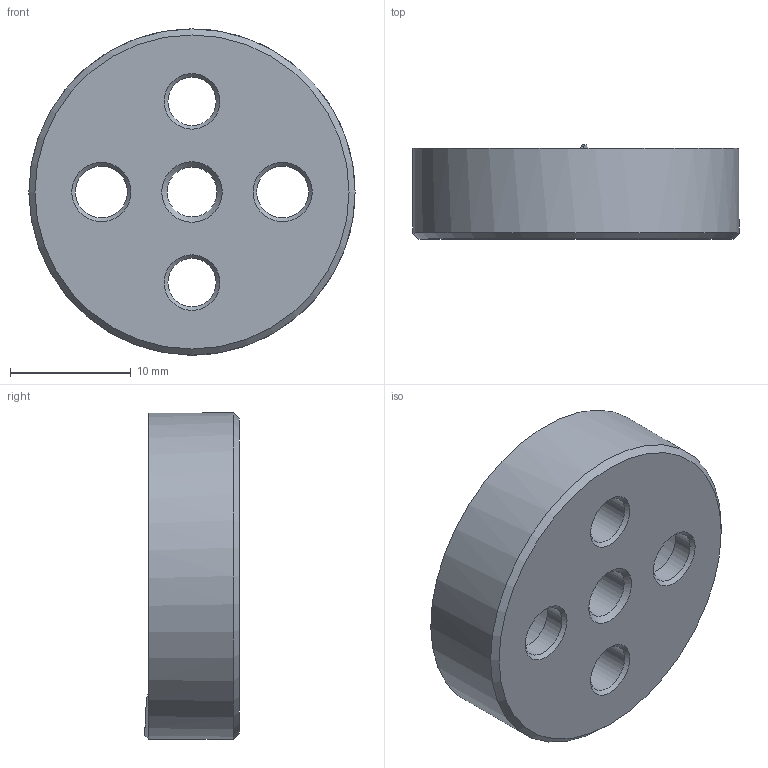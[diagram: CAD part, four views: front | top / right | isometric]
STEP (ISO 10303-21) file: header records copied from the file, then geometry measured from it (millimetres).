
FILE_DESCRIPTION( ( 'STEP AP203' ), '1' );
FILE_NAME( 'C:/Temp/Ganter_Step_05_03_2020/data/3_2/gn187_4/gn187_4_st/Serrated locking plate GN 187.4-27-60-A-ST.stp', '2020-03-13T05:25:32', ( 'License CC BY-ND 4.0' ), ( 'CADENAS' ), ' ', 'PARTsolutions', ' ' );
FILE_SCHEMA( ( 'CONFIG_CONTROL_DESIGN' ) );
Length unit declared in the file: millimetre
Products named in the file (1): _Serrated locking plate GN 187.4-27-60-A-ST
Bounding box: 27 x 7.84 x 27 mm (x, y, z)
Volume: 3186 mm3; surface area: 2204.6 mm2
Topology: 1 solids, 1 shells, 36 faces, 94 edges, 60 vertices
Faces by surface type: cone 15, cylinder 12, plane 9
Full cylindrical faces by diameter (mm): 4 x2, 4.134 x1, 4.3 x2, 8.1 x2, 27 x1
Entity records: 1152 total; most frequent: CARTESIAN_POINT 286, DIRECTION 178, ORIENTED_EDGE 146, AXIS2_PLACEMENT_3D 84, EDGE_CURVE 73, EDGE_LOOP 63, VERTEX_POINT 56, FACE_OUTER_BOUND 44
